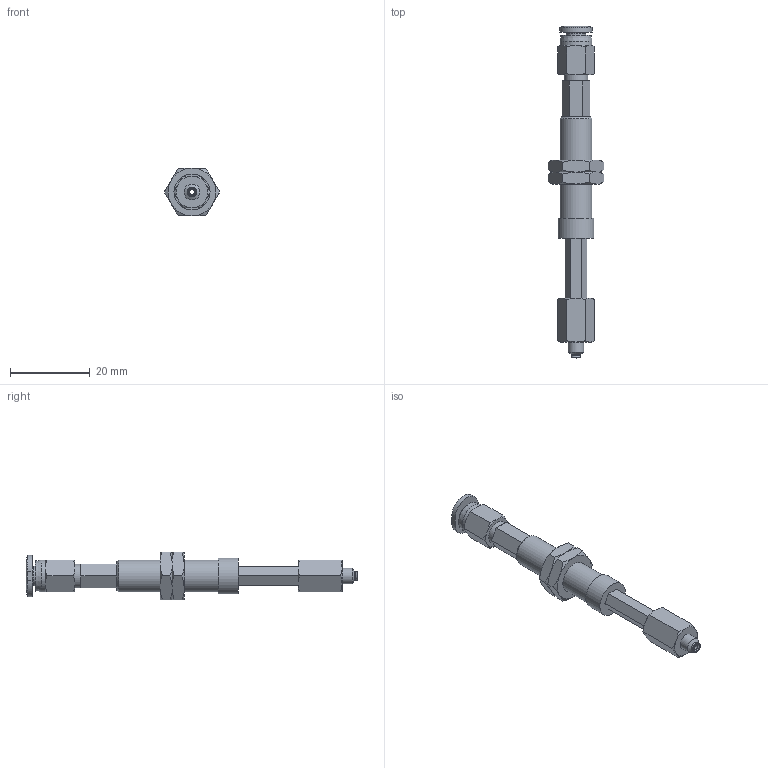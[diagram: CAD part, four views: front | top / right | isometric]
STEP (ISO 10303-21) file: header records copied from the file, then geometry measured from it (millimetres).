
FILE_DESCRIPTION(('STEP AP203'),'1');
FILE_NAME('-O.stp','2025-08-27T02:36:17',(' '),(' '),'Spatial InterOp 3D',' ',' ');
FILE_SCHEMA(('CONFIG_CONTROL_DESIGN'));
Length unit declared in the file: millimetre
Products named in the file (7): BNABPFTH-2A-15-※-O; ADAPTER; NAPFTH-2A-15-MBODY; Nut-2A-15-h; NAPFTH-2A-15-FBODY; BPFG-2A-※; PC-C_04-M3
Assembly tree (7 placements, depth 2):
  BNABPFTH-2A-15-※-O
    ADAPTER
    NAPFTH-2A-15-MBODY
    Nut-2A-15-h  x2
    NAPFTH-2A-15-FBODY
    BPFG-2A-※
    PC-C_04-M3
Bounding box: 13.86 x 83.27 x 12 mm (x, y, z)
Volume: 3219.3 mm3; surface area: 4587.4 mm2
Topology: 6 solids, 8 shells, 172 faces, 361 edges, 218 vertices
Faces by surface type: plane 71, cone 62, cylinder 22, torus 9, bspline 5, revolution 3
Full cylindrical faces by diameter (mm): 1.2 x3, 2 x2, 2.459 x1, 2.5 x2, 3 x3, 4 x1, 4.9 x1, 6 x1, 6.1 x1, 7.188 x2, 8 x2, 9 x1
Entity records: 4429 total; most frequent: CARTESIAN_POINT 1214, DIRECTION 589, ORIENTED_EDGE 522, EDGE_CURVE 262, AXIS2_PLACEMENT_3D 251, EDGE_LOOP 216, VERTEX_POINT 182, FACE_OUTER_BOUND 118
